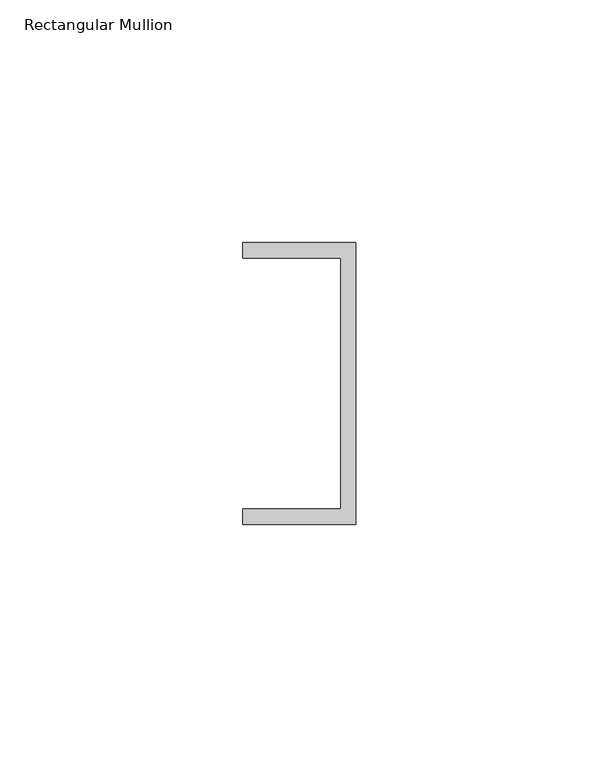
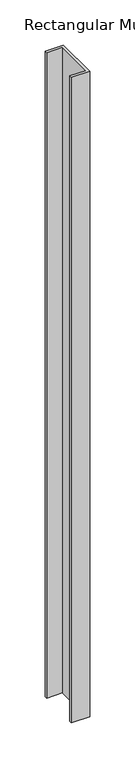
"""IFC4 building model written with IfcOpenShell, lengths in millimetres: member geometry, Rectangular Mullion : Frame-Teknion-Altos-Ceiling_Channel."""

from ifc_helpers import new_model, si_unit, frame, origin, place, context, project, spatial, polyline, outline, extrude, source, transform, mapped, element, save


def rectangular_mullion_54c82f83(model_context):
    return source(origin(), model_context, "Body", "SweptSolid", [
        extrude(outline(polyline([(0.0, 29.0214844), (0.0, -29.0214844), (-23.3164063, -29.0214844), (-23.3164063, -25.8464844), (-3.175, -25.8464844), (-3.175, 25.8464844), (-23.3164063, 25.8464844), (-23.3164063, 29.0214844), (0.0, 29.0214844)])), frame((0.0, 0.0, -872.4304687), z_axis=(0.0, 0.0, 1.0), x_axis=(1.0, 0.0, 0.0)), (0.0, 0.0, 1.0), 872.4304688),
    ])


if __name__ == "__main__":
    model = new_model("IFC4")
    model_context = context("Model", 3, world=origin())
    ifc_project = project(units=[si_unit("LENGTHUNIT", "METRE", prefix="MILLI")], contexts=[model_context])
    site = spatial("IfcSite", under=ifc_project)
    building = spatial("IfcBuilding", under=site)
    placement = place(None, origin())
    rectangular_mullion_shape = rectangular_mullion_54c82f83(model_context)
    element("IfcMember", 1, ObjectType="Rectangular Mullion : Frame-Teknion-Altos-Ceiling_Channel", at=placement, inside=building, context=model_context, shape_type="MappedRepresentation", body=[
        mapped(rectangular_mullion_shape, transform((0.0, 0.0, 0.0), x_axis=(1.0, 0.0, 0.0), y_axis=(0.0, 1.0, 0.0), z_axis=(0.0, 0.0, 1.0))),
    ])
    save(model, "model.ifc")
